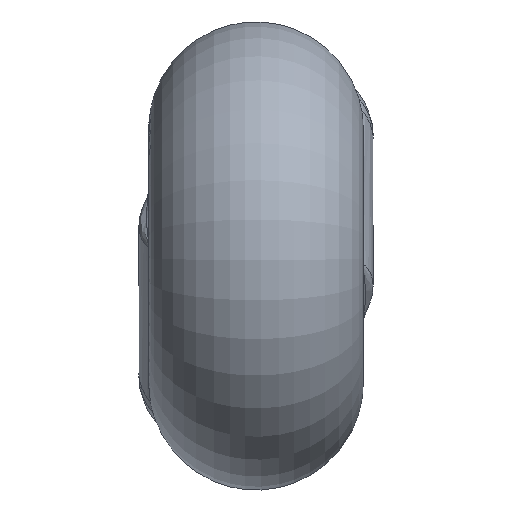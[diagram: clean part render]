
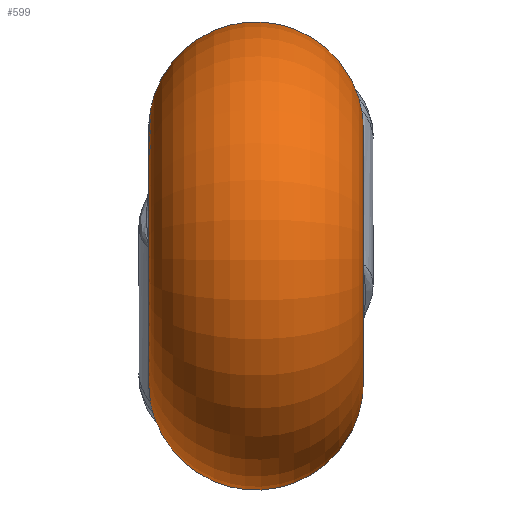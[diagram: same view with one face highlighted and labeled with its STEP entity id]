
A CAD part, left-side view. The second image highlights one B-rep face of the part: STEP entity #599.
In plain terms, the highlighted toroidal (fillet/blend) face has major radius 3.25 mm and minor radius 2.75 mm.
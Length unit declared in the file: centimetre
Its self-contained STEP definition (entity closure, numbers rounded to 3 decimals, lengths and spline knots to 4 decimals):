
#14=TOROIDAL_SURFACE('',#644,0.325,0.275);
#77=B_SPLINE_CURVE_WITH_KNOTS('',3,(#2033,#2034,#2035,#2036,#2037),
 .UNSPECIFIED.,.F.,.F.,(4,1,4),(-0.201,-0.1005,0.),
 .UNSPECIFIED.);
#79=B_SPLINE_CURVE_WITH_KNOTS('',3,(#2080,#2081,#2082,#2083,#2084,#2085,
#2086),.UNSPECIFIED.,.F.,.F.,(4,1,1,1,4),(-0.3874,-0.2767,
-0.166,-0.1107,0.),.UNSPECIFIED.);
#80=B_SPLINE_CURVE_WITH_KNOTS('',3,(#2145,#2146,#2147,#2148,#2149,#2150,
#2151,#2152,#2153,#2154,#2155),.UNSPECIFIED.,.F.,.F.,(4,1,1,1,1,1,1,1,4),
(-0.8186,-0.7601,-0.7017,-0.5847,
-0.4678,-0.3508,-0.1754,-0.1169,
0.),.UNSPECIFIED.);
#81=B_SPLINE_CURVE_WITH_KNOTS('',3,(#2163,#2164,#2165,#2166,#2167,#2168,
#2169),.UNSPECIFIED.,.F.,.F.,(4,1,1,1,4),(-0.3874,-0.2767,
-0.166,-0.1107,0.),.UNSPECIFIED.);
#82=B_SPLINE_CURVE_WITH_KNOTS('',3,(#2171,#2172,#2173,#2174,#2175),
 .UNSPECIFIED.,.F.,.F.,(4,1,4),(-0.201,-0.1005,0.),
 .UNSPECIFIED.);
#83=B_SPLINE_CURVE_WITH_KNOTS('',3,(#2177,#2178,#2179,#2180,#2181,#2182,
#2183,#2184,#2185,#2186,#2187),.UNSPECIFIED.,.F.,.F.,(4,1,1,1,1,1,1,1,4),
(-0.8186,-0.7601,-0.7017,-0.5847,
-0.4678,-0.3508,-0.2339,-0.1169,
0.),.UNSPECIFIED.);
#111=FACE_BOUND('',#178,.T.);
#136=FACE_OUTER_BOUND('',#177,.T.);
#177=EDGE_LOOP('',(#471,#472,#473,#474));
#178=EDGE_LOOP('',(#475,#476,#477,#478));
#217=CIRCLE('',#645,0.325);
#218=CIRCLE('',#646,0.325);
#267=VERTEX_POINT('',#2030);
#268=VERTEX_POINT('',#2032);
#269=VERTEX_POINT('',#2079);
#270=VERTEX_POINT('',#2143);
#271=VERTEX_POINT('',#2161);
#272=VERTEX_POINT('',#2162);
#273=VERTEX_POINT('',#2170);
#274=VERTEX_POINT('',#2176);
#336=EDGE_CURVE('',#267,#268,#77,.T.);
#339=EDGE_CURVE('',#268,#269,#79,.T.);
#342=EDGE_CURVE('',#270,#267,#80,.T.);
#345=EDGE_CURVE('',#271,#272,#81,.T.);
#346=EDGE_CURVE('',#273,#271,#82,.T.);
#347=EDGE_CURVE('',#274,#273,#83,.T.);
#348=EDGE_CURVE('',#274,#272,#217,.T.);
#349=EDGE_CURVE('',#270,#269,#218,.T.);
#471=ORIENTED_EDGE('',*,*,#345,.F.);
#472=ORIENTED_EDGE('',*,*,#346,.F.);
#473=ORIENTED_EDGE('',*,*,#347,.F.);
#474=ORIENTED_EDGE('',*,*,#348,.T.);
#475=ORIENTED_EDGE('',*,*,#339,.F.);
#476=ORIENTED_EDGE('',*,*,#336,.F.);
#477=ORIENTED_EDGE('',*,*,#342,.F.);
#478=ORIENTED_EDGE('',*,*,#349,.T.);
#599=ADVANCED_FACE('',(#136,#111),#14,.T.);
#644=AXIS2_PLACEMENT_3D('',#2160,#725,#726);
#645=AXIS2_PLACEMENT_3D('',#2188,#727,#728);
#646=AXIS2_PLACEMENT_3D('',#2189,#729,#730);
#725=DIRECTION('center_axis',(0.,1.,0.));
#726=DIRECTION('ref_axis',(1.,0.,0.));
#727=DIRECTION('center_axis',(0.,1.,0.));
#728=DIRECTION('ref_axis',(-1.,0.,0.));
#729=DIRECTION('center_axis',(0.,-1.,0.));
#730=DIRECTION('ref_axis',(-1.,0.,0.));
#2030=CARTESIAN_POINT('',(0.4636,0.0032,-0.3656));
#2032=CARTESIAN_POINT('',(0.3908,0.1572,-0.4386));
#2033=CARTESIAN_POINT('Ctrl Pts',(0.4636,0.0032,
-0.3656));
#2034=CARTESIAN_POINT('Ctrl Pts',(0.4491,0.0185,
-0.3908));
#2035=CARTESIAN_POINT('Ctrl Pts',(0.4218,0.0634,
-0.4335));
#2036=CARTESIAN_POINT('Ctrl Pts',(0.3999,0.1265,-0.4433));
#2037=CARTESIAN_POINT('Ctrl Pts',(0.3908,0.1572,-0.4386));
#2079=CARTESIAN_POINT('',(0.2748,0.35,-0.1735));
#2080=CARTESIAN_POINT('Ctrl Pts',(0.3908,0.1572,-0.4386));
#2081=CARTESIAN_POINT('Ctrl Pts',(0.3808,0.191,-0.4333));
#2082=CARTESIAN_POINT('Ctrl Pts',(0.3649,0.2549,-0.4004));
#2083=CARTESIAN_POINT('Ctrl Pts',(0.3473,0.3077,-0.3281));
#2084=CARTESIAN_POINT('Ctrl Pts',(0.3228,0.3407,-0.2487));
#2085=CARTESIAN_POINT('Ctrl Pts',(0.2998,0.35,-0.1989));
#2086=CARTESIAN_POINT('Ctrl Pts',(0.2748,0.35,-0.1735));
#2143=CARTESIAN_POINT('',(0.3196,0.35,0.0592));
#2145=CARTESIAN_POINT('Ctrl Pts',(0.3196,0.35,0.0592));
#2146=CARTESIAN_POINT('Ctrl Pts',(0.333,0.35,0.0453));
#2147=CARTESIAN_POINT('Ctrl Pts',(0.3613,0.3489,0.0189));
#2148=CARTESIAN_POINT('Ctrl Pts',(0.4292,0.3341,-0.0138));
#2149=CARTESIAN_POINT('Ctrl Pts',(0.5123,0.2864,-0.0256));
#2150=CARTESIAN_POINT('Ctrl Pts',(0.5791,0.1949,-0.0467));
#2151=CARTESIAN_POINT('Ctrl Pts',(0.6033,0.0711,
-0.0993));
#2152=CARTESIAN_POINT('Ctrl Pts',(0.5625,-0.008,
-0.1841));
#2153=CARTESIAN_POINT('Ctrl Pts',(0.5079,-0.0268,
-0.2853));
#2154=CARTESIAN_POINT('Ctrl Pts',(0.4806,-0.0145,
-0.3364));
#2155=CARTESIAN_POINT('Ctrl Pts',(0.4636,0.0032,
-0.3656));
#2160=CARTESIAN_POINT('Origin',(0.,0.075,0.));
#2161=CARTESIAN_POINT('',(0.3908,-0.0072,0.4386));
#2162=CARTESIAN_POINT('',(0.2748,-0.2,0.1735));
#2163=CARTESIAN_POINT('Ctrl Pts',(0.3908,-0.0072,
0.4386));
#2164=CARTESIAN_POINT('Ctrl Pts',(0.3808,-0.041,
0.4333));
#2165=CARTESIAN_POINT('Ctrl Pts',(0.3649,-0.1049,
0.4004));
#2166=CARTESIAN_POINT('Ctrl Pts',(0.3473,-0.1577,0.3281));
#2167=CARTESIAN_POINT('Ctrl Pts',(0.3228,-0.1907,
0.2487));
#2168=CARTESIAN_POINT('Ctrl Pts',(0.2998,-0.2,0.1989));
#2169=CARTESIAN_POINT('Ctrl Pts',(0.2748,-0.2,0.1735));
#2170=CARTESIAN_POINT('',(0.4636,0.1468,0.3656));
#2171=CARTESIAN_POINT('Ctrl Pts',(0.4636,0.1468,0.3656));
#2172=CARTESIAN_POINT('Ctrl Pts',(0.4491,0.1315,0.3908));
#2173=CARTESIAN_POINT('Ctrl Pts',(0.4218,0.0866,
0.4335));
#2174=CARTESIAN_POINT('Ctrl Pts',(0.3999,0.0235,
0.4433));
#2175=CARTESIAN_POINT('Ctrl Pts',(0.3908,-0.0072,
0.4386));
#2176=CARTESIAN_POINT('',(0.3196,-0.2,-0.0592));
#2177=CARTESIAN_POINT('Ctrl Pts',(0.3196,-0.2,-0.0592));
#2178=CARTESIAN_POINT('Ctrl Pts',(0.333,-0.2,-0.0453));
#2179=CARTESIAN_POINT('Ctrl Pts',(0.3613,-0.1989,
-0.0189));
#2180=CARTESIAN_POINT('Ctrl Pts',(0.4292,-0.1841,
0.0138));
#2181=CARTESIAN_POINT('Ctrl Pts',(0.5123,-0.1365,0.0256));
#2182=CARTESIAN_POINT('Ctrl Pts',(0.5791,-0.0447,
0.0466));
#2183=CARTESIAN_POINT('Ctrl Pts',(0.5997,0.0609,
0.092));
#2184=CARTESIAN_POINT('Ctrl Pts',(0.5715,0.1465,0.1682));
#2185=CARTESIAN_POINT('Ctrl Pts',(0.5171,0.1813,0.2679));
#2186=CARTESIAN_POINT('Ctrl Pts',(0.4806,0.1645,0.3364));
#2187=CARTESIAN_POINT('Ctrl Pts',(0.4636,0.1468,0.3656));
#2188=CARTESIAN_POINT('Origin',(0.,-0.2,0.));
#2189=CARTESIAN_POINT('Origin',(0.,0.35,0.));
